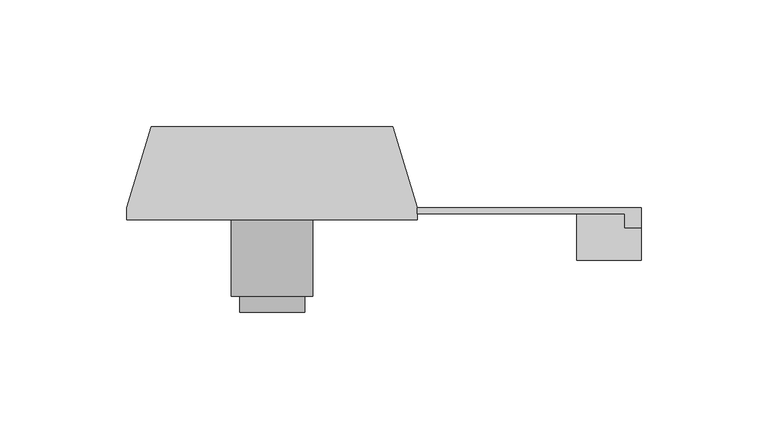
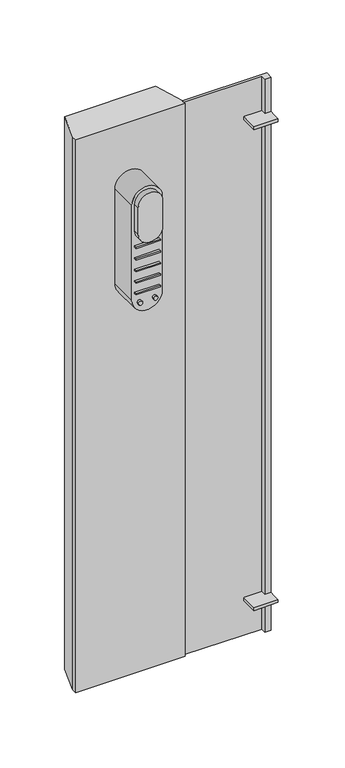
"""IFC4 building model written with IfcOpenShell, lengths in millimetres: furniture geometry, HermanMiller_Carts_CT621_LockBar : Basic Keyless Entry 36H Cart Rt Side Lock Key Diff."""

from ifc_helpers import new_model, si_unit, point, frame, frame_2d, origin, place, context, project, spatial, polyline, circle_curve, trimmed, segment, composite_curve, outline, extrude, source, transform, mapped, element, save


def furniture_7420d28c(model_context):
    return source(origin(), model_context, "Body", "SweptSolid", [
        extrude(outline(composite_curve([segment(trimmed(circle_curve(frame_2d((655.7943661, -249.2248)), 2.1588506), [point((655.7943661, -247.0659494))], [point((655.7943661, -251.3836506))], False, "CARTESIAN"), True, "CONTINUOUS"), segment(trimmed(circle_curve(frame_2d((655.7943661, -249.2248)), 2.1588506), [point((655.7943661, -251.3836506))], [point((655.7943661, -247.0659494))], False, "CARTESIAN"), True, "CONTINUOUS")], self_intersect=False)), frame((0.0, -15.1902543, 0.0), z_axis=(0.0, 1.0, 0.0), x_axis=(0.0, 0.0, 1.0)), (0.0, 0.0, 1.0), 2.54),
        extrude(outline(composite_curve([segment(trimmed(circle_curve(frame_2d((655.7943661, -233.3752)), 2.159), [point((655.7943661, -231.2162))], [point((655.7943661, -235.5342))], False, "CARTESIAN"), True, "CONTINUOUS"), segment(trimmed(circle_curve(frame_2d((655.7943661, -233.3752)), 2.159), [point((655.7943661, -235.5342))], [point((655.7943661, -231.2162))], False, "CARTESIAN"), True, "CONTINUOUS")], self_intersect=False)), frame((0.0, -15.1902543, 0.0), z_axis=(0.0, 1.0, 0.0), x_axis=(0.0, 0.0, 1.0)), (0.0, 0.0, 1.0), 2.54),
        extrude(outline(polyline([(-254.127, -12.6502543), (-228.473, -12.6502543), (-228.473, -15.1902543), (-254.127, -15.1902543), (-254.127, -12.6502543)])), frame((0.0, 0.0, 717.6687661), z_axis=(0.0, 0.0, 1.0), x_axis=(1.0, 0.0, 0.0)), (0.0, 0.0, 1.0), 1.4224),
        extrude(outline(polyline([(-254.127, -12.6502543), (-228.473, -12.6502543), (-228.473, -15.1902543), (-254.127, -15.1902543), (-254.127, -12.6502543)])), frame((0.0, 0.0, 704.8925661), z_axis=(0.0, 0.0, 1.0), x_axis=(1.0, 0.0, 0.0)), (0.0, 0.0, 1.0), 1.4224),
        extrude(outline(polyline([(-254.127, -12.6502543), (-228.473, -12.6502543), (-228.473, -15.1902543), (-254.127, -15.1902543), (-254.127, -12.6502543)])), frame((0.0, 0.0, 691.9385661), z_axis=(0.0, 0.0, 1.0), x_axis=(1.0, 0.0, 0.0)), (0.0, 0.0, 1.0), 1.4224),
        extrude(outline(polyline([(-254.127, -12.6502543), (-228.473, -12.6502543), (-228.473, -15.1902543), (-254.127, -15.1902543), (-254.127, -12.6502543)])), frame((0.0, 0.0, 679.3655661), z_axis=(0.0, 0.0, 1.0), x_axis=(1.0, 0.0, 0.0)), (0.0, 0.0, 1.0), 1.4224),
        extrude(outline(polyline([(-254.127, -12.6502543), (-228.473, -12.6502543), (-228.473, -15.1902543), (-254.127, -15.1902543), (-254.127, -12.6502543)])), frame((0.0, 0.0, 666.5893661), z_axis=(0.0, 0.0, 1.0), x_axis=(1.0, 0.0, 0.0)), (0.0, 0.0, 1.0), 1.4224),
        extrude(outline(composite_curve([segment(trimmed(circle_curve(frame_2d((735.8043661, -241.3)), 12.827), [point((735.8043661, -254.127))], [point((735.8043661, -228.473))], False, "CARTESIAN"), True, "CONTINUOUS"), segment(polyline([(735.8043661, -228.473), (764.3857161, -228.473)]), True, "CONTINUOUS"), segment(trimmed(circle_curve(frame_2d((764.3857161, -241.3)), 12.827), [point((764.3857161, -228.473))], [point((764.3857161, -254.127))], False, "CARTESIAN"), True, "CONTINUOUS"), segment(polyline([(764.3857161, -254.127), (735.8043661, -254.127)]), True, "CONTINUOUS")], self_intersect=False)), frame((0.0, -19.0104143, 0.0), z_axis=(0.0, 1.0, 0.0), x_axis=(0.0, 0.0, 1.0)), (0.0, 0.0, 1.0), 6.36016),
        extrude(outline(composite_curve([segment(trimmed(circle_curve(frame_2d((660.2901661, -241.3)), 16.0238281), [point((660.2901661, -257.3238281))], [point((660.2901661, -225.2761719))], False, "CARTESIAN"), True, "CONTINUOUS"), segment(polyline([(660.2901661, -225.2761719), (764.3857161, -225.2761719)]), True, "CONTINUOUS"), segment(trimmed(circle_curve(frame_2d((764.3857161, -241.3)), 16.0238281), [point((764.3857161, -225.2761719))], [point((764.3857161, -257.3238281))], False, "CARTESIAN"), True, "CONTINUOUS"), segment(polyline([(764.3857161, -257.3238281), (660.2901661, -257.3238281)]), True, "CONTINUOUS")], self_intersect=False)), frame((0.0, -12.6502543, 0.0), z_axis=(0.0, 1.0, 0.0), x_axis=(0.0, 0.0, 1.0)), (0.0, 0.0, 1.0), 30.1244),
        extrude(outline(polyline([(-96.043115, 1.5976616), (-121.443115, 1.5976616), (-121.443115, 22.23516), (-96.043115, 22.23516), (-96.043115, 1.5976616)])), frame((0.0, 0.0, 792.1733161), z_axis=(0.0, 0.0, 1.0), x_axis=(1.0, 0.0, 0.0)), (0.0, 0.0, 1.0), 3.175),
        extrude(outline(polyline([(-96.043115, 1.5976616), (-121.443115, 1.5976616), (-121.443115, 22.23516), (-96.043115, 22.23516), (-96.043115, 1.5976616)])), frame((0.0, 0.0, 261.9483161), z_axis=(0.0, 0.0, 1.0), x_axis=(1.0, 0.0, 0.0)), (0.0, 0.0, 1.0), 3.175),
        extrude(outline(polyline([(-96.043115, 14.2976615), (-102.393115, 14.2976615), (-102.393115, 19.8447895), (-184.150635, 19.8447895), (-184.150635, 22.23516), (-96.043115, 22.23516), (-96.043115, 14.2976615)])), frame((0.0, 0.0, 223.8483161), z_axis=(0.0, 0.0, 1.0), x_axis=(1.0, 0.0, 0.0)), (0.0, 0.0, 1.0), 609.6),
        extrude(outline(polyline([(-184.150635, 17.4741457), (-298.449365, 17.4741457), (-298.449365, 22.23516), (-288.822765, 53.98516), (-193.777235, 53.98516), (-184.150635, 22.23516), (-184.150635, 17.4741457)])), frame((0.0, 0.0, 223.8483161), z_axis=(0.0, 0.0, 1.0), x_axis=(1.0, 0.0, 0.0)), (0.0, 0.0, 1.0), 609.6),
    ])


if __name__ == "__main__":
    model = new_model("IFC4")
    model_context = context("Model", 3, world=origin())
    ifc_project = project(units=[si_unit("LENGTHUNIT", "METRE", prefix="MILLI")], contexts=[model_context])
    site = spatial("IfcSite", under=ifc_project)
    building = spatial("IfcBuilding", under=site)
    placement = place(None, origin())
    furniture_shape = furniture_7420d28c(model_context)
    element("IfcFurniture", 1, ObjectType="HermanMiller_Carts_CT621_LockBar : Basic Keyless Entry 36H Cart Rt Side Lock Key Diff", at=placement, inside=building, context=model_context, shape_type="MappedRepresentation", body=[
        mapped(furniture_shape, transform((0.0, 0.0, 0.0), x_axis=(1.0, 0.0, 0.0), y_axis=(0.0, 1.0, 0.0), z_axis=(0.0, 0.0, 1.0))),
    ])
    save(model, "model.ifc")
